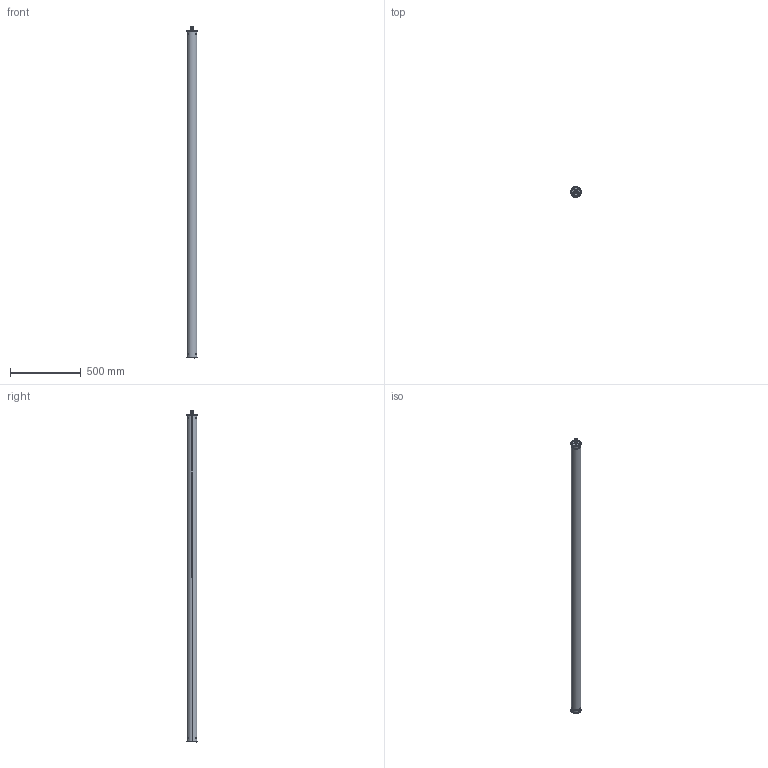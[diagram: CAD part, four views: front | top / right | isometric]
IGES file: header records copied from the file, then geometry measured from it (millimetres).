
Start section: SolidWorks IGES file using analytic representation for surfaces
Global section: file name: C:\Users\JoãoSantos\Desktop\02_3D.2D\01_2020\02_Linear\02_Tubo\02_Tubo_70\Normal\TUBO_70_2312.IGS; native system: SolidWorks 2020; preprocessor: SolidWorks 2020; author: JoãoSantos; date: 201020.180350; units: millimetre
Bounding box: 73 x 73 x 2344.7 mm (x, y, z)
Surface area: 1076284.4 mm2 (no closed solid volume)
Topology: 0 solids, 0 shells, 1608 faces, 15018 edges, 14852 vertices
Faces by surface type: revolution 888, bspline 720
